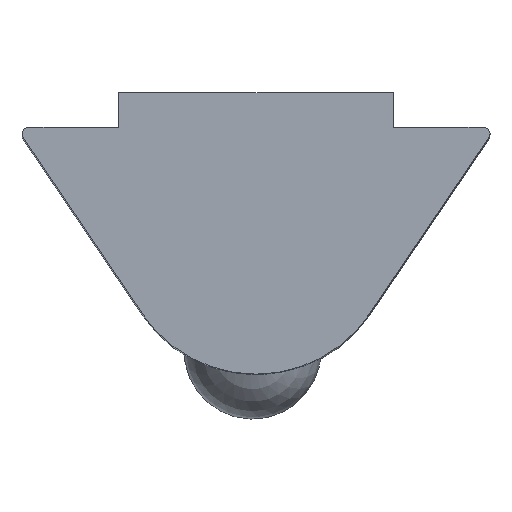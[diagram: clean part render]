
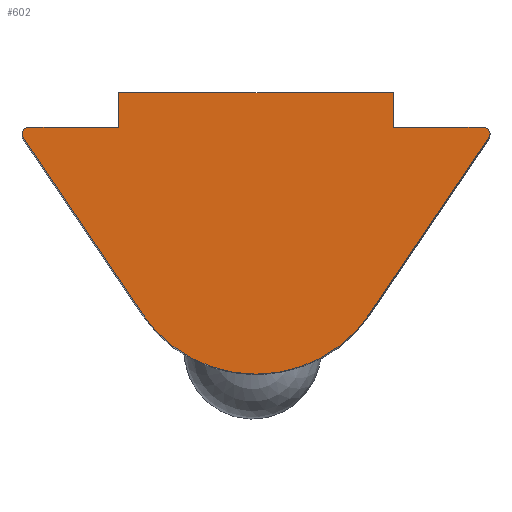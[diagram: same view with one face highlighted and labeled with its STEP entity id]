
A CAD part, top view. The second image highlights one B-rep face of the part: STEP entity #602.
In plain terms, the highlighted planar face has unit normal (0, 0, 1).
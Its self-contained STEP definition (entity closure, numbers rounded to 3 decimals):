
#168=CARTESIAN_POINT('',(11.0,-4.911,22.0));
#169=VERTEX_POINT('',#168);
#176=CARTESIAN_POINT('',(11.0,-5.911,22.0));
#177=VERTEX_POINT('',#176);
#178=CARTESIAN_POINT('',(11.0,-4.911,22.0));
#179=DIRECTION('',(0.0,-1.0,0.0));
#180=VECTOR('',#179,1.);
#181=LINE('',#178,#180);
#182=EDGE_CURVE('',#169,#177,#181,.T.);
#206=CARTESIAN_POINT('',(3.,-4.911,22.0));
#207=VERTEX_POINT('',#206);
#214=CARTESIAN_POINT('',(3.,-4.911,22.0));
#215=DIRECTION('',(1.0,0.0,0.0));
#216=VECTOR('',#215,8.0);
#217=LINE('',#214,#216);
#218=EDGE_CURVE('',#207,#169,#217,.T.);
#240=CARTESIAN_POINT('',(3.,-5.911,22.0));
#241=VERTEX_POINT('',#240);
#248=CARTESIAN_POINT('',(3.,-5.911,22.0));
#249=DIRECTION('',(0.0,1.0,0.0));
#250=VECTOR('',#249,1.);
#251=LINE('',#248,#250);
#252=EDGE_CURVE('',#241,#207,#251,.T.);
#272=CARTESIAN_POINT('',(0.377,-5.911,22.0));
#273=VERTEX_POINT('',#272);
#280=CARTESIAN_POINT('',(0.377,-5.911,22.0));
#281=DIRECTION('',(1.0,0.0,0.0));
#282=VECTOR('',#281,2.623);
#283=LINE('',#280,#282);
#284=EDGE_CURVE('',#273,#241,#283,.T.);
#295=CARTESIAN_POINT('',(13.623,-5.911,22.0));
#296=VERTEX_POINT('',#295);
#297=CARTESIAN_POINT('',(11.0,-5.911,22.0));
#298=DIRECTION('',(1.0,0.0,0.0));
#299=VECTOR('',#298,2.623);
#300=LINE('',#297,#299);
#301=EDGE_CURVE('',#177,#296,#300,.T.);
#414=CARTESIAN_POINT('',(13.788,-6.223,22.0));
#415=VERTEX_POINT('',#414);
#416=CARTESIAN_POINT('',(13.623,-6.111,22.0));
#417=DIRECTION('',(0.0,0.0,-1.));
#418=DIRECTION('',(0.883,0.469,0.0));
#419=AXIS2_PLACEMENT_3D('',#416,#417,#418);
#420=CIRCLE('',#419,0.2);
#421=EDGE_CURVE('',#296,#415,#420,.T.);
#493=CARTESIAN_POINT('',(0.212,-6.223,22.0));
#494=VERTEX_POINT('',#493);
#495=CARTESIAN_POINT('',(0.377,-6.111,22.0));
#496=DIRECTION('',(0.0,0.0,-1.0));
#497=DIRECTION('',(-0.883,0.469,0.0));
#498=AXIS2_PLACEMENT_3D('',#495,#496,#497);
#499=CIRCLE('',#498,0.2);
#500=EDGE_CURVE('',#494,#273,#499,.T.);
#518=CARTESIAN_POINT('',(3.689,-11.355,22.0));
#519=VERTEX_POINT('',#518);
#527=CARTESIAN_POINT('',(10.311,-11.355,22.0));
#528=VERTEX_POINT('',#527);
#535=CARTESIAN_POINT('',(7.,-9.111,22.0));
#536=DIRECTION('',(0.0,0.0,-1.));
#537=DIRECTION('',(-0.6,0.8,0.0));
#538=AXIS2_PLACEMENT_3D('',#535,#536,#537);
#539=CIRCLE('',#538,4.0);
#540=EDGE_CURVE('',#528,#519,#539,.T.);
#559=CARTESIAN_POINT('',(3.689,-11.355,22.0));
#560=DIRECTION('',(-0.561,0.828,0.0));
#561=VECTOR('',#560,6.199);
#562=LINE('',#559,#561);
#563=EDGE_CURVE('',#519,#494,#562,.T.);
#574=CARTESIAN_POINT('',(13.788,-6.223,22.0));
#575=DIRECTION('',(-0.561,-0.828,0.0));
#576=VECTOR('',#575,6.199);
#577=LINE('',#574,#576);
#578=EDGE_CURVE('',#415,#528,#577,.T.);
#585=CARTESIAN_POINT('',(11.451,-7.869,22.0));
#586=DIRECTION('',(0.0,0.0,1.0));
#587=DIRECTION('',(1.0,0.0,0.0));
#588=AXIS2_PLACEMENT_3D('',#585,#586,#587);
#589=PLANE('',#588);
#590=ORIENTED_EDGE('',*,*,#421,.F.);
#591=ORIENTED_EDGE('',*,*,#301,.F.);
#592=ORIENTED_EDGE('',*,*,#182,.F.);
#593=ORIENTED_EDGE('',*,*,#218,.F.);
#594=ORIENTED_EDGE('',*,*,#252,.F.);
#595=ORIENTED_EDGE('',*,*,#284,.F.);
#596=ORIENTED_EDGE('',*,*,#500,.F.);
#597=ORIENTED_EDGE('',*,*,#563,.F.);
#598=ORIENTED_EDGE('',*,*,#540,.F.);
#599=ORIENTED_EDGE('',*,*,#578,.F.);
#600=EDGE_LOOP('',(#590,#591,#592,#593,#594,#595,#596,#597,#598,#599));
#601=FACE_OUTER_BOUND('',#600,.T.);
#602=ADVANCED_FACE('',(#601),#589,.T.);
